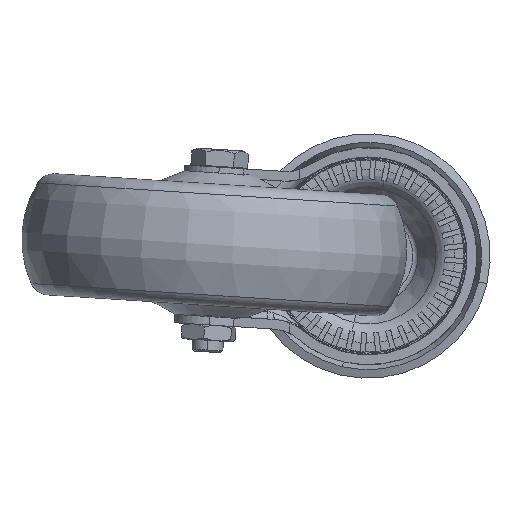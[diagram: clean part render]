
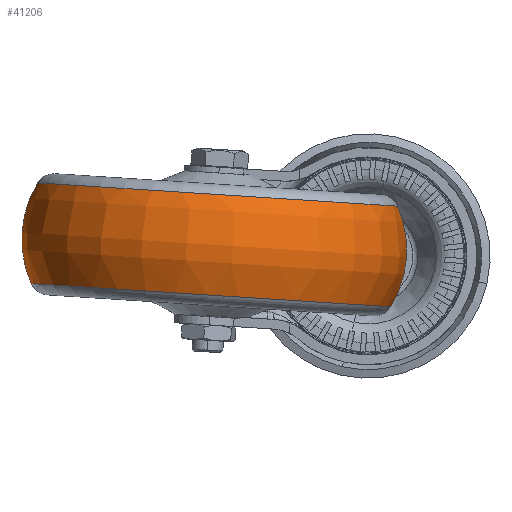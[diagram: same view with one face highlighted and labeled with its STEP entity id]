
A CAD part, front view. The second image highlights one B-rep face of the part: STEP entity #41206.
In plain terms, the highlighted toroidal (fillet/blend) face has major radius 22 mm and minor radius 28 mm.
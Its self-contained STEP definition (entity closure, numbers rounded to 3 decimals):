
#1636 = CARTESIAN_POINT ( 'NONE',  ( 24.92, -70.21, 15.968 ) ) ;
#1637 = DIRECTION ( 'NONE',  ( -0.064, 0., -0.998 ) ) ;
#1638 = DIRECTION ( 'NONE',  ( -0.998, 0.023, 0.064 ) ) ;
#1748 = CARTESIAN_POINT ( 'NONE',  ( 46.027, -70.72, 1.492 ) ) ;
#1750 = DIRECTION ( 'NONE',  ( 0.023, 1., -0.001 ) ) ;
#1752 = DIRECTION ( 'NONE',  ( -1., 0.023, 0. ) ) ;
#1756 = CARTESIAN_POINT ( 'NONE',  ( 2.13, -69.7, 4.322 ) ) ;
#1758 = DIRECTION ( 'NONE',  ( -0.023, -1., 0.001 ) ) ;
#1760 = DIRECTION ( 'NONE',  ( 1., -0.023, 0. ) ) ;
#1764 = CARTESIAN_POINT ( 'NONE',  ( 23.237, -70.21, -10.153 ) ) ;
#1766 = DIRECTION ( 'NONE',  ( -0.064, 0., -0.998 ) ) ;
#1768 = DIRECTION ( 'NONE',  ( -0.998, 0.023, 0.064 ) ) ;
#4174 = CIRCLE ( 'NONE', #4178, 46.753 ) ;
#4178 = AXIS2_PLACEMENT_3D ( 'NONE', #1636, #1637, #1638 ) ;
#4201 = CIRCLE ( 'NONE', #4206, 28. ) ;
#4205 = CIRCLE ( 'NONE', #4208, 28. ) ;
#4206 = AXIS2_PLACEMENT_3D ( 'NONE', #1748, #1750, #1752 ) ;
#4207 = CIRCLE ( 'NONE', #4210, 46.753 ) ;
#4208 = AXIS2_PLACEMENT_3D ( 'NONE', #1756, #1758, #1760 ) ;
#4210 = AXIS2_PLACEMENT_3D ( 'NONE', #1764, #1766, #1768 ) ;
#11406 = CARTESIAN_POINT ( 'NONE',  ( 69.88, -71.294, -13.16 ) ) ;
#11411 = CARTESIAN_POINT ( 'NONE',  ( -21.723, -69.126, 18.974 ) ) ;
#11416 = CARTESIAN_POINT ( 'NONE',  ( -23.407, -69.126, -7.146 ) ) ;
#11418 = CARTESIAN_POINT ( 'NONE',  ( 71.564, -71.294, 12.961 ) ) ;
#13399 = VERTEX_POINT ( 'NONE', #11406 ) ;
#13404 = VERTEX_POINT ( 'NONE', #11411 ) ;
#13409 = VERTEX_POINT ( 'NONE', #11416 ) ;
#13411 = VERTEX_POINT ( 'NONE', #11418 ) ;
#20336 = TOROIDAL_SURFACE ( 'NONE', #20355, 22., 28. ) ;
#20355 = AXIS2_PLACEMENT_3D ( 'NONE', #27365, #27362, #27368 ) ;
#27362 = DIRECTION ( 'NONE',  ( -0.064, 0., -0.998 ) ) ;
#27363 = FACE_OUTER_BOUND ( 'NONE', #31736, .T. ) ;
#27365 = CARTESIAN_POINT ( 'NONE',  ( 24.078, -70.21, 2.907 ) ) ;
#27368 = DIRECTION ( 'NONE',  ( -0.998, 0.023, 0.064 ) ) ;
#28786 = EDGE_CURVE ( 'NONE', #13411, #13404, #4174, .T. ) ;
#28820 = EDGE_CURVE ( 'NONE', #13411, #13399, #4201, .T. ) ;
#28822 = EDGE_CURVE ( 'NONE', #13404, #13409, #4205, .T. ) ;
#28824 = EDGE_CURVE ( 'NONE', #13399, #13409, #4207, .T. ) ;
#31736 = EDGE_LOOP ( 'NONE', ( #35838, #35839, #35840, #35841 ) ) ;
#35838 = ORIENTED_EDGE ( 'NONE', *, *, #28820, .F. ) ;
#35839 = ORIENTED_EDGE ( 'NONE', *, *, #28786, .T. ) ;
#35840 = ORIENTED_EDGE ( 'NONE', *, *, #28822, .T. ) ;
#35841 = ORIENTED_EDGE ( 'NONE', *, *, #28824, .F. ) ;
#41206 = ADVANCED_FACE ( 'NONE', ( #27363 ), #20336, .T. ) ;
